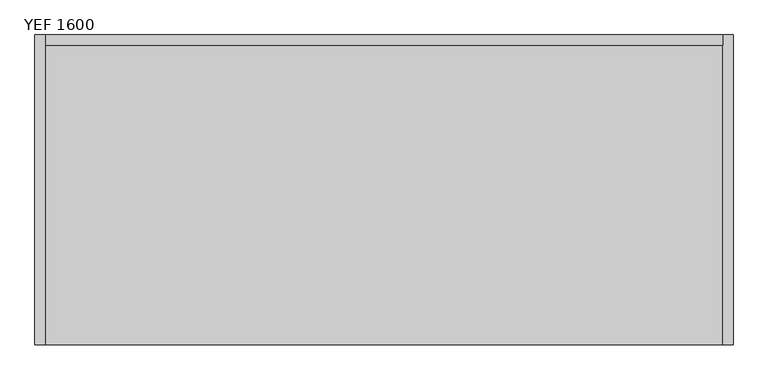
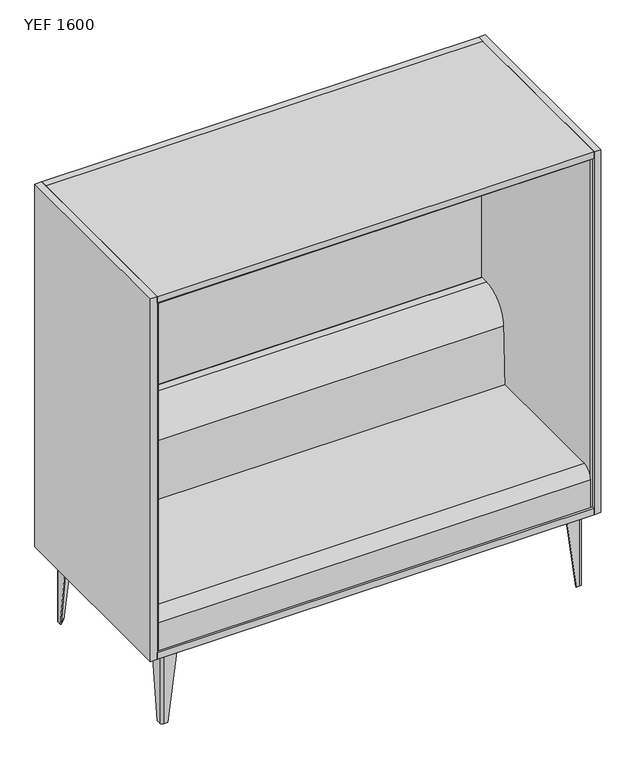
"""IFC4 building model written with IfcOpenShell, lengths in millimetres: furniture geometry, Mobiliário_Mobiliário de Escritório_LinhaYoung_Sofa Enclosure Fechado (Aço) - YEF_Marelli : YEF 1600."""

from ifc_helpers import new_model, si_unit, point, frame, frame_2d, origin, origin_with_axes, place, context, project, spatial, polyline, circle_curve, trimmed, segment, composite_curve, outline, extrude, source, transform, mapped, element, save
from ifc_brep_helpers import plane_surface, cylinder_surface, revolved_surface, advanced_brep


def yef_1600_15b0d586(model_context):
    return source(origin(), model_context, "Body", "SolidModel", [
        advanced_brep(
        [(20.0, 75.0, 280.0), (20.0, 25.0, 280.0), (30.0, 15.0, 280.0), (80.0, 15.0, 280.0), (80.0, 18.0, 280.0), (30.0, 18.0, 280.0), (23.0, 25.0, 280.0), (23.0, 75.0, 280.0), (20.0, 39.0, 0.0), (23.0, 39.0, 0.0), (23.0, 25.0, 0.0), (30.0, 18.0, 0.0), (44.0, 18.0, 0.0), (44.0, 15.0, 0.0), (30.0, 15.0, 0.0), (20.0, 25.0, 0.0)],
        [
            (0, 1),
            (1, 2, circle_curve(frame((30.0, 25.0, 280.0), z_axis=(0.0, 0.0, 1.0), x_axis=(0.0, -1.0, 0.0)), 10.0)),
            (2, 3),
            (3, 4),
            (4, 5),
            (5, 6, circle_curve(frame((30.0, 25.0, 280.0), z_axis=(0.0, 0.0, -1.0), x_axis=(-1.0, 0.0, 0.0)), 7.0)),
            (6, 7),
            (7, 0),
            (8, 9),
            (9, 10),
            (10, 11, circle_curve(frame((30.0, 25.0, 0.0), z_axis=(0.0, 0.0, 1.0), x_axis=(-1.0, 0.0, 0.0)), 7.0)),
            (11, 12),
            (12, 13),
            (13, 14),
            (14, 15, circle_curve(frame((30.0, 25.0, 0.0), z_axis=(0.0, 0.0, -1.0), x_axis=(0.0, -1.0, 0.0)), 10.0)),
            (15, 8),
            (15, 1),
            (0, 8),
            (14, 2),
            (13, 3),
            (12, 4),
            (11, 5),
            (10, 6),
            (9, 7),
        ],
        [
            plane_surface(frame((38.25, 33.25, 280.0), z_axis=(0.0, 0.0, 1.0), x_axis=(0.0, -1.0, 0.0))),
            plane_surface(frame((29.25, 24.25, 0.0), z_axis=(0.0, 0.0, -1.0), x_axis=(0.0, -1.0, 0.0))),
            plane_surface(frame((20.0, 32.0, 0.0), z_axis=(-1.0, 0.0, 0.0), x_axis=(0.0, -1.0, 0.0))),
            cylinder_surface(frame((30.0, 25.0, 0.0), z_axis=(0.0, 0.0, 1.0), x_axis=(0.0, -1.0, 0.0)), 10.0),
            plane_surface(frame((37.0, 15.0, 0.0), z_axis=(0.0, -1.0, 0.0), x_axis=(1.0, 0.0, 0.0))),
            plane_surface(frame((44.0, 16.5, 0.0), z_axis=(0.9918357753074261, 0.0, -0.12752174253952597), x_axis=(0.0, 1.0, 0.0))),
            plane_surface(frame((37.0, 18.0, 0.0), z_axis=(0.0, 1.0, 0.0), x_axis=(-1.0, 0.0, 0.0))),
            revolved_surface(polyline([(23.0, 25.0, 280.0), (23.0, 25.0, 0.0)]), (30.0, 25.0, 0.0), (0.0, 0.0, 1.0)),
            plane_surface(frame((23.0, 32.0, 0.0), z_axis=(1.0, 0.0, 0.0), x_axis=(0.0, 1.0, 0.0))),
            plane_surface(frame((21.5, 39.0, 0.0), z_axis=(0.0, 0.9918357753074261, -0.12752174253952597), x_axis=(-1.0, 0.0, 0.0))),
        ],
        [
            (0, [[1, 2, 3, 4, 5, 6, 7, 8]]),
            (1, [[9, 10, 11, 12, 13, 14, 15, 16]]),
            (2, [[-16, 17, -1, 18]]),
            (3, [[-15, 19, -2, -17]]),
            (4, [[-14, 20, -3, -19]]),
            (5, [[-13, 21, -4, -20]]),
            (6, [[-12, 22, -5, -21]]),
            (7, [[-11, 23, -6, -22]]),
            (8, [[-10, 24, -7, -23]]),
            (9, [[-9, -18, -8, -24]]),
        ],
    ),
        advanced_brep(
        [(1580.0, 75.0, 280.0), (1577.0, 75.0, 280.0), (1577.0, 25.0, 280.0), (1570.0, 18.0, 280.0), (1520.0, 18.0, 280.0), (1520.0, 15.0, 280.0), (1570.0, 15.0, 280.0), (1580.0, 25.0, 280.0), (1580.0, 39.0, 0.0), (1580.0, 25.0, 0.0), (1570.0, 15.0, 0.0), (1556.0, 15.0, 0.0), (1556.0, 18.0, 0.0), (1570.0, 18.0, 0.0), (1577.0, 25.0, 0.0), (1577.0, 39.0, 0.0)],
        [
            (0, 1),
            (1, 2),
            (2, 3, circle_curve(frame((1570.0, 25.0, 280.0), z_axis=(0.0, 0.0, -1.0), x_axis=(0.0, -1.0, 0.0)), 7.0)),
            (3, 4),
            (4, 5),
            (5, 6),
            (6, 7, circle_curve(frame((1570.0, 25.0, 280.0), z_axis=(0.0, 0.0, 1.0), x_axis=(1.0, 0.0, 0.0)), 10.0)),
            (7, 0),
            (8, 9),
            (9, 10, circle_curve(frame((1570.0, 25.0, 0.0), z_axis=(0.0, 0.0, -1.0), x_axis=(1.0, 0.0, 0.0)), 10.0)),
            (10, 11),
            (11, 12),
            (12, 13),
            (13, 14, circle_curve(frame((1570.0, 25.0, 0.0), z_axis=(0.0, 0.0, 1.0), x_axis=(0.0, -1.0, 0.0)), 7.0)),
            (14, 15),
            (15, 8),
            (8, 0),
            (7, 9),
            (6, 10),
            (5, 11),
            (4, 12),
            (3, 13),
            (2, 14),
            (1, 15),
        ],
        [
            plane_surface(frame((1561.75, 33.25, 280.0), z_axis=(0.0, 0.0, 1.0), x_axis=(-1.0, 0.0, 0.0))),
            plane_surface(frame((1570.75, 24.25, 0.0), z_axis=(0.0, 0.0, -1.0), x_axis=(-1.0, 0.0, 0.0))),
            plane_surface(frame((1580.0, 32.0, 0.0), z_axis=(1.0, 0.0, 0.0), x_axis=(0.0, 1.0, 0.0))),
            cylinder_surface(frame((1570.0, 25.0, 0.0), z_axis=(0.0, 0.0, 1.0), x_axis=(1.0, 0.0, 0.0)), 10.0),
            plane_surface(frame((1563.0, 15.0, 0.0), z_axis=(0.0, -1.0, 0.0), x_axis=(1.0, 0.0, 0.0))),
            plane_surface(frame((1556.0, 16.5, 0.0), z_axis=(-0.9918357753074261, 0.0, -0.127521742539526), x_axis=(0.0, -1.0, 0.0))),
            plane_surface(frame((1563.0, 18.0, 0.0), z_axis=(0.0, 1.0, 0.0), x_axis=(-1.0, 0.0, 0.0))),
            revolved_surface(polyline([(1570.0, 18.0, 280.0), (1570.0, 18.0, 0.0)]), (1570.0, 25.0, 0.0), (0.0, 0.0, 1.0)),
            plane_surface(frame((1577.0, 32.0, 0.0), z_axis=(-1.0, 0.0, 0.0), x_axis=(0.0, -1.0, 0.0))),
            plane_surface(frame((1578.5, 39.0, 0.0), z_axis=(0.0, 0.9918357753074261, -0.12752174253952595), x_axis=(-1.0, 0.0, 0.0))),
        ],
        [
            (0, [[1, 2, 3, 4, 5, 6, 7, 8]]),
            (1, [[9, 10, 11, 12, 13, 14, 15, 16]]),
            (2, [[-9, 17, -8, 18]]),
            (3, [[-10, -18, -7, 19]]),
            (4, [[-11, -19, -6, 20]]),
            (5, [[-12, -20, -5, 21]]),
            (6, [[-13, -21, -4, 22]]),
            (7, [[-14, -22, -3, 23]]),
            (8, [[-15, -23, -2, 24]]),
            (9, [[-16, -24, -1, -17]]),
        ],
    ),
        advanced_brep(
        [(20.0, 625.0, 280.0), (23.0, 625.0, 280.0), (23.0, 675.0, 280.0), (30.0, 682.0, 280.0), (80.0, 682.0, 280.0), (80.0, 685.0, 280.0), (30.0, 685.0, 280.0), (20.0, 675.0, 280.0), (20.0, 661.0, 0.0), (20.0, 675.0, 0.0), (30.0, 685.0, 0.0), (44.0, 685.0, 0.0), (44.0, 682.0, 0.0), (30.0, 682.0, 0.0), (23.0, 675.0, 0.0), (23.0, 661.0, 0.0)],
        [
            (0, 1),
            (1, 2),
            (2, 3, circle_curve(frame((30.0, 675.0, 280.0), z_axis=(0.0, 0.0, -1.0), x_axis=(0.0, 1.0, 0.0)), 7.0)),
            (3, 4),
            (4, 5),
            (5, 6),
            (6, 7, circle_curve(frame((30.0, 675.0, 280.0), z_axis=(0.0, 0.0, 1.0), x_axis=(-1.0, 0.0, 0.0)), 10.0)),
            (7, 0),
            (8, 9),
            (9, 10, circle_curve(frame((30.0, 675.0, 0.0), z_axis=(0.0, 0.0, -1.0), x_axis=(-1.0, 0.0, 0.0)), 10.0)),
            (10, 11),
            (11, 12),
            (12, 13),
            (13, 14, circle_curve(frame((30.0, 675.0, 0.0), z_axis=(0.0, 0.0, 1.0), x_axis=(0.0, 1.0, 0.0)), 7.0)),
            (14, 15),
            (15, 8),
            (8, 0),
            (7, 9),
            (6, 10),
            (5, 11),
            (4, 12),
            (3, 13),
            (2, 14),
            (1, 15),
        ],
        [
            plane_surface(frame((38.25, 666.75, 280.0), z_axis=(0.0, 0.0, 1.0), x_axis=(1.0, 0.0, 0.0))),
            plane_surface(frame((29.25, 675.75, 0.0), z_axis=(0.0, 0.0, -1.0), x_axis=(1.0, 0.0, 0.0))),
            plane_surface(frame((20.0, 668.0, 0.0), z_axis=(-1.0, 0.0, 0.0), x_axis=(0.0, -1.0, 0.0))),
            cylinder_surface(frame((30.0, 675.0, 0.0), z_axis=(0.0, 0.0, 1.0), x_axis=(-1.0, 0.0, 0.0)), 10.0),
            plane_surface(frame((37.0, 685.0, 0.0), z_axis=(0.0, 1.0, 0.0), x_axis=(-1.0, 0.0, 0.0))),
            plane_surface(frame((44.0, 683.5, 0.0), z_axis=(0.9918357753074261, 0.0, -0.12752174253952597), x_axis=(0.0, 1.0, 0.0))),
            plane_surface(frame((37.0, 682.0, 0.0), z_axis=(0.0, -1.0, 0.0), x_axis=(1.0, 0.0, 0.0))),
            revolved_surface(polyline([(30.0, 682.0, 280.0), (30.0, 682.0, 0.0)]), (30.0, 675.0, 0.0), (0.0, 0.0, 1.0)),
            plane_surface(frame((23.0, 668.0, 0.0), z_axis=(1.0, 0.0, 0.0), x_axis=(0.0, 1.0, 0.0))),
            plane_surface(frame((21.5, 661.0, 0.0), z_axis=(0.0, -0.9918357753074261, -0.127521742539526), x_axis=(1.0, 0.0, 0.0))),
        ],
        [
            (0, [[1, 2, 3, 4, 5, 6, 7, 8]]),
            (1, [[9, 10, 11, 12, 13, 14, 15, 16]]),
            (2, [[-9, 17, -8, 18]]),
            (3, [[-10, -18, -7, 19]]),
            (4, [[-11, -19, -6, 20]]),
            (5, [[-12, -20, -5, 21]]),
            (6, [[-13, -21, -4, 22]]),
            (7, [[-14, -22, -3, 23]]),
            (8, [[-15, -23, -2, 24]]),
            (9, [[-16, -24, -1, -17]]),
        ],
    ),
        advanced_brep(
        [(1580.0, 625.0, 280.0), (1580.0, 675.0, 280.0), (1570.0, 685.0, 280.0), (1520.0, 685.0, 280.0), (1520.0, 682.0, 280.0), (1570.0, 682.0, 280.0), (1577.0, 675.0, 280.0), (1577.0, 625.0, 280.0), (1580.0, 661.0, 0.0), (1577.0, 661.0, 0.0), (1577.0, 675.0, 0.0), (1570.0, 682.0, 0.0), (1556.0, 682.0, 0.0), (1556.0, 685.0, 0.0), (1570.0, 685.0, 0.0), (1580.0, 675.0, 0.0)],
        [
            (0, 1),
            (1, 2, circle_curve(frame((1570.0, 675.0, 280.0), z_axis=(0.0, 0.0, 1.0), x_axis=(0.0, 1.0, 0.0)), 10.0)),
            (2, 3),
            (3, 4),
            (4, 5),
            (5, 6, circle_curve(frame((1570.0, 675.0, 280.0), z_axis=(0.0, 0.0, -1.0), x_axis=(1.0, 0.0, 0.0)), 7.0)),
            (6, 7),
            (7, 0),
            (8, 9),
            (9, 10),
            (10, 11, circle_curve(frame((1570.0, 675.0, 0.0), z_axis=(0.0, 0.0, 1.0), x_axis=(1.0, 0.0, 0.0)), 7.0)),
            (11, 12),
            (12, 13),
            (13, 14),
            (14, 15, circle_curve(frame((1570.0, 675.0, 0.0), z_axis=(0.0, 0.0, -1.0), x_axis=(0.0, 1.0, 0.0)), 10.0)),
            (15, 8),
            (15, 1),
            (0, 8),
            (14, 2),
            (13, 3),
            (12, 4),
            (11, 5),
            (10, 6),
            (9, 7),
        ],
        [
            plane_surface(frame((1561.75, 666.75, 280.0), z_axis=(0.0, 0.0, 1.0), x_axis=(0.0, 1.0, 0.0))),
            plane_surface(frame((1570.75, 675.75, 0.0), z_axis=(0.0, 0.0, -1.0), x_axis=(0.0, 1.0, 0.0))),
            plane_surface(frame((1580.0, 668.0, 0.0), z_axis=(1.0, 0.0, 0.0), x_axis=(0.0, 1.0, 0.0))),
            cylinder_surface(frame((1570.0, 675.0, 0.0), z_axis=(0.0, 0.0, 1.0), x_axis=(0.0, 1.0, 0.0)), 10.0),
            plane_surface(frame((1563.0, 685.0, 0.0), z_axis=(0.0, 1.0, 0.0), x_axis=(-1.0, 0.0, 0.0))),
            plane_surface(frame((1556.0, 683.5, 0.0), z_axis=(-0.9918357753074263, 0.0, -0.1275217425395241), x_axis=(0.0, -1.0, 0.0))),
            plane_surface(frame((1563.0, 682.0, 0.0), z_axis=(0.0, -1.0, 0.0), x_axis=(1.0, 0.0, 0.0))),
            revolved_surface(polyline([(1577.0, 675.0, 280.0), (1577.0, 675.0, 0.0)]), (1570.0, 675.0, 0.0), (0.0, 0.0, 1.0)),
            plane_surface(frame((1577.0, 668.0, 0.0), z_axis=(-1.0, 0.0, 0.0), x_axis=(0.0, -1.0, 0.0))),
            plane_surface(frame((1578.5, 661.0, 0.0), z_axis=(0.0, -0.9918357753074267, -0.1275217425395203), x_axis=(1.0, 0.0, 0.0))),
        ],
        [
            (0, [[1, 2, 3, 4, 5, 6, 7, 8]]),
            (1, [[9, 10, 11, 12, 13, 14, 15, 16]]),
            (2, [[-16, 17, -1, 18]]),
            (3, [[-15, 19, -2, -17]]),
            (4, [[-14, 20, -3, -19]]),
            (5, [[-13, 21, -4, -20]]),
            (6, [[-12, 22, -5, -21]]),
            (7, [[-11, 23, -6, -22]]),
            (8, [[-10, 24, -7, -23]]),
            (9, [[-9, -18, -8, -24]]),
        ],
    ),
        extrude(outline(composite_curve([segment(polyline([(23.0, 39.0), (44.0, 18.0), (30.0, 18.0)]), True, "CONTINUOUS"), segment(trimmed(circle_curve(frame_2d((30.0, 25.0)), 7.0), [point((30.0, 18.0))], [point((23.0, 25.0))], False, "CARTESIAN"), True, "CONTINUOUS"), segment(polyline([(23.0, 25.0), (23.0, 39.0)]), True, "CONTINUOUS")], self_intersect=False)), origin_with_axes(), (0.0, 0.0, 1.0), 1.0),
        extrude(outline(composite_curve([segment(polyline([(23.0, 661.0), (23.0, 675.0)]), True, "CONTINUOUS"), segment(trimmed(circle_curve(frame_2d((30.0, 675.0)), 7.0), [point((23.0, 675.0))], [point((30.0, 682.0))], False, "CARTESIAN"), True, "CONTINUOUS"), segment(polyline([(30.0, 682.0), (44.0, 682.0), (23.0, 661.0)]), True, "CONTINUOUS")], self_intersect=False)), origin_with_axes(), (0.0, 0.0, 1.0), 1.0),
        extrude(outline(composite_curve([segment(polyline([(1577.0, 39.0), (1577.0, 25.0)]), True, "CONTINUOUS"), segment(trimmed(circle_curve(frame_2d((1570.0, 25.0)), 7.0), [point((1577.0, 25.0))], [point((1570.0, 18.0))], False, "CARTESIAN"), True, "CONTINUOUS"), segment(polyline([(1570.0, 18.0), (1556.0, 18.0), (1577.0, 39.0)]), True, "CONTINUOUS")], self_intersect=False)), origin_with_axes(), (0.0, 0.0, 1.0), 1.0),
        extrude(outline(composite_curve([segment(polyline([(1577.0, 661.0), (1556.0, 682.0), (1570.0, 682.0)]), True, "CONTINUOUS"), segment(trimmed(circle_curve(frame_2d((1570.0, 675.0)), 7.0), [point((1570.0, 682.0))], [point((1577.0, 675.0))], False, "CARTESIAN"), True, "CONTINUOUS"), segment(polyline([(1577.0, 675.0), (1577.0, 661.0)]), True, "CONTINUOUS")], self_intersect=False)), origin_with_axes(), (0.0, 0.0, 1.0), 1.0),
        extrude(outline(composite_curve([segment(trimmed(circle_curve(frame_2d((30.0, 25.0)), 7.0), [point((30.0, 18.0))], [point((23.0, 25.0))], False, "CARTESIAN"), True, "CONTINUOUS"), segment(polyline([(23.0, 25.0), (23.0, 93.0)]), True, "CONTINUOUS"), segment(trimmed(circle_curve(frame_2d((28.0, 93.0)), 5.0), [point((23.0, 93.0))], [point((28.0, 98.0))], False, "CARTESIAN"), True, "CONTINUOUS"), segment(polyline([(28.0, 98.0), (51.9545624, 98.0)]), True, "CONTINUOUS"), segment(trimmed(circle_curve(frame_2d((52.6241051, 89.931755)), 8.0959783), [point((51.9545624, 98.0))], [point((58.520382, 95.479618))], False, "CARTESIAN"), True, "CONTINUOUS"), segment(polyline([(58.520382, 95.479618), (100.479618, 53.520382)]), True, "CONTINUOUS"), segment(trimmed(circle_curve(frame_2d((94.931755, 47.6241051)), 8.0959783), [point((100.479618, 53.520382))], [point((103.0, 46.9545624))], False, "CARTESIAN"), True, "CONTINUOUS"), segment(polyline([(103.0, 46.9545624), (103.0, 23.0)]), True, "CONTINUOUS"), segment(trimmed(circle_curve(frame_2d((98.0, 23.0)), 5.0), [point((103.0, 23.0))], [point((98.0, 18.0))], False, "CARTESIAN"), True, "CONTINUOUS"), segment(polyline([(98.0, 18.0), (30.0, 18.0)]), True, "CONTINUOUS")], self_intersect=False)), frame((0.0, 0.0, 279.0), z_axis=(0.0, 0.0, 1.0), x_axis=(1.0, 0.0, 0.0)), (0.0, 0.0, 1.0), 1.0),
        extrude(outline(composite_curve([segment(polyline([(30.0, 682.0), (98.0, 682.0)]), True, "CONTINUOUS"), segment(trimmed(circle_curve(frame_2d((98.0, 677.0)), 5.0), [point((98.0, 682.0))], [point((103.0, 677.0))], False, "CARTESIAN"), True, "CONTINUOUS"), segment(polyline([(103.0, 677.0), (103.0, 653.0454376)]), True, "CONTINUOUS"), segment(trimmed(circle_curve(frame_2d((94.931755, 652.3758949)), 8.0959783), [point((103.0, 653.0454376))], [point((100.479618, 646.479618))], False, "CARTESIAN"), True, "CONTINUOUS"), segment(polyline([(100.479618, 646.479618), (58.520382, 604.520382)]), True, "CONTINUOUS"), segment(trimmed(circle_curve(frame_2d((52.6241051, 610.068245)), 8.0959783), [point((58.520382, 604.520382))], [point((51.9545624, 602.0))], False, "CARTESIAN"), True, "CONTINUOUS"), segment(polyline([(51.9545624, 602.0), (28.0, 602.0)]), True, "CONTINUOUS"), segment(trimmed(circle_curve(frame_2d((28.0, 607.0)), 5.0), [point((28.0, 602.0))], [point((23.0, 607.0))], False, "CARTESIAN"), True, "CONTINUOUS"), segment(polyline([(23.0, 607.0), (23.0, 675.0)]), True, "CONTINUOUS"), segment(trimmed(circle_curve(frame_2d((30.0, 675.0)), 7.0), [point((23.0, 675.0))], [point((30.0, 682.0))], False, "CARTESIAN"), True, "CONTINUOUS")], self_intersect=False)), frame((0.0, 0.0, 279.0), z_axis=(0.0, 0.0, 1.0), x_axis=(1.0, 0.0, 0.0)), (0.0, 0.0, 1.0), 1.0),
        extrude(outline(composite_curve([segment(polyline([(1570.0, 18.0), (1502.0, 18.0)]), True, "CONTINUOUS"), segment(trimmed(circle_curve(frame_2d((1502.0, 23.0)), 5.0), [point((1502.0, 18.0))], [point((1497.0, 23.0))], False, "CARTESIAN"), True, "CONTINUOUS"), segment(polyline([(1497.0, 23.0), (1497.0, 46.9545624)]), True, "CONTINUOUS"), segment(trimmed(circle_curve(frame_2d((1505.068245, 47.6241051)), 8.0959783), [point((1497.0, 46.9545624))], [point((1499.520382, 53.520382))], False, "CARTESIAN"), True, "CONTINUOUS"), segment(polyline([(1499.520382, 53.520382), (1541.479618, 95.479618)]), True, "CONTINUOUS"), segment(trimmed(circle_curve(frame_2d((1547.3758949, 89.931755)), 8.0959783), [point((1541.479618, 95.479618))], [point((1548.0454376, 98.0))], False, "CARTESIAN"), True, "CONTINUOUS"), segment(polyline([(1548.0454376, 98.0), (1572.0, 98.0)]), True, "CONTINUOUS"), segment(trimmed(circle_curve(frame_2d((1572.0, 93.0)), 5.0), [point((1572.0, 98.0))], [point((1577.0, 93.0))], False, "CARTESIAN"), True, "CONTINUOUS"), segment(polyline([(1577.0, 93.0), (1577.0, 25.0)]), True, "CONTINUOUS"), segment(trimmed(circle_curve(frame_2d((1570.0, 25.0)), 7.0), [point((1577.0, 25.0))], [point((1570.0, 18.0))], False, "CARTESIAN"), True, "CONTINUOUS")], self_intersect=False)), frame((0.0, 0.0, 279.0), z_axis=(0.0, 0.0, 1.0), x_axis=(1.0, 0.0, 0.0)), (0.0, 0.0, 1.0), 1.0),
        extrude(outline(composite_curve([segment(trimmed(circle_curve(frame_2d((1570.0, 675.0)), 7.0), [point((1570.0, 682.0))], [point((1577.0, 675.0))], False, "CARTESIAN"), True, "CONTINUOUS"), segment(polyline([(1577.0, 675.0), (1577.0, 607.0)]), True, "CONTINUOUS"), segment(trimmed(circle_curve(frame_2d((1572.0, 607.0)), 5.0), [point((1577.0, 607.0))], [point((1572.0, 602.0))], False, "CARTESIAN"), True, "CONTINUOUS"), segment(polyline([(1572.0, 602.0), (1548.0454376, 602.0)]), True, "CONTINUOUS"), segment(trimmed(circle_curve(frame_2d((1547.3758949, 610.068245)), 8.0959783), [point((1548.0454376, 602.0))], [point((1541.479618, 604.520382))], False, "CARTESIAN"), True, "CONTINUOUS"), segment(polyline([(1541.479618, 604.520382), (1499.520382, 646.479618)]), True, "CONTINUOUS"), segment(trimmed(circle_curve(frame_2d((1505.068245, 652.3758949)), 8.0959783), [point((1499.520382, 646.479618))], [point((1497.0, 653.0454376))], False, "CARTESIAN"), True, "CONTINUOUS"), segment(polyline([(1497.0, 653.0454376), (1497.0, 677.0)]), True, "CONTINUOUS"), segment(trimmed(circle_curve(frame_2d((1502.0, 677.0)), 5.0), [point((1497.0, 677.0))], [point((1502.0, 682.0))], False, "CARTESIAN"), True, "CONTINUOUS"), segment(polyline([(1502.0, 682.0), (1570.0, 682.0)]), True, "CONTINUOUS")], self_intersect=False)), frame((0.0, 0.0, 279.0), z_axis=(0.0, 0.0, 1.0), x_axis=(1.0, 0.0, 0.0)), (0.0, 0.0, 1.0), 1.0),
        extrude(outline(composite_curve([segment(polyline([(547.0, 455.0), (547.0, 305.0), (0.0, 305.0), (0.0, 415.0)]), True, "CONTINUOUS"), segment(trimmed(circle_curve(frame_2d((40.0, 415.0)), 40.0), [point((0.0, 415.0))], [point((40.0, 455.0))], False, "CARTESIAN"), True, "CONTINUOUS"), segment(polyline([(40.0, 455.0), (547.0, 455.0)]), True, "CONTINUOUS")], self_intersect=False)), frame((0.0, 0.0, 0.0), z_axis=(1.0, 0.0, 0.0), x_axis=(0.0, 1.0, 0.0)), (0.0, 0.0, 1.0), 1600.0),
        extrude(outline(polyline([(1609.0, -9.0), (-9.0, -9.0), (-9.0, 706.0), (1609.0, 706.0), (1609.0, -9.0)])), frame((0.0, 0.0, 280.0), z_axis=(0.0, 0.0, 1.0), x_axis=(1.0, 0.0, 0.0)), (0.0, 0.0, 1.0), 25.0),
        extrude(outline(polyline([(-9.0, 0.0), (-9.0, 706.0), (0.0, 706.0), (0.0, 0.0), (-9.0, 0.0)])), frame((0.0, 0.0, 305.0), z_axis=(0.0, 0.0, 1.0), x_axis=(1.0, 0.0, 0.0)), (0.0, 0.0, 1.0), 1370.0),
        extrude(outline(polyline([(-9.0, -9.0), (-34.0, -9.0), (-34.0, 731.0), (-9.0, 731.0), (-9.0, -9.0)])), frame((0.0, 0.0, 280.0), z_axis=(0.0, 0.0, 1.0), x_axis=(1.0, 0.0, 0.0)), (0.0, 0.0, 1.0), 1420.0),
        extrude(outline(polyline([(1609.0, 706.0), (-9.0, 706.0), (-9.0, 731.0), (1609.0, 731.0), (1609.0, 706.0)])), frame((0.0, 0.0, 280.0), z_axis=(0.0, 0.0, 1.0), x_axis=(1.0, 0.0, 0.0)), (0.0, 0.0, 1.0), 1420.0),
        extrude(outline(polyline([(1609.0, -9.0), (1609.0, 731.0), (1634.0, 731.0), (1634.0, -9.0), (1609.0, -9.0)])), frame((0.0, 0.0, 280.0), z_axis=(0.0, 0.0, 1.0), x_axis=(1.0, 0.0, 0.0)), (0.0, 0.0, 1.0), 1420.0),
        extrude(outline(polyline([(1609.0, 0.0), (1600.0, 0.0), (1600.0, 706.0), (1609.0, 706.0), (1609.0, 0.0)])), frame((0.0, 0.0, 305.0), z_axis=(0.0, 0.0, 1.0), x_axis=(1.0, 0.0, 0.0)), (0.0, 0.0, 1.0), 1370.0),
        extrude(outline(polyline([(1609.0, -9.0), (-9.0, -9.0), (-9.0, 706.0), (1609.0, 706.0), (1609.0, -9.0)])), frame((0.0, 0.0, 1675.0), z_axis=(0.0, 0.0, 1.0), x_axis=(1.0, 0.0, 0.0)), (0.0, 0.0, 1.0), 25.0),
        extrude(outline(polyline([(1600.0, 0.0), (0.0, 0.0), (0.0, 706.0), (1600.0, 706.0), (1600.0, 0.0)])), frame((0.0, 0.0, 1666.0), z_axis=(0.0, 0.0, 1.0), x_axis=(1.0, 0.0, 0.0)), (0.0, 0.0, 1.0), 9.0),
        extrude(outline(polyline([(1600.0, 706.0), (1600.0, 697.0), (0.0, 697.0), (0.0, 706.0), (1600.0, 706.0)])), frame((0.0, 0.0, 305.0), z_axis=(0.0, 0.0, 1.0), x_axis=(1.0, 0.0, 0.0)), (0.0, 0.0, 1.0), 1361.0),
        extrude(outline(composite_curve([segment(polyline([(697.0, 781.802426), (697.0, 305.0), (547.0, 305.0), (547.0, 455.0), (555.2568376, 679.223651)]), True, "CONTINUOUS"), segment(trimmed(circle_curve(frame_2d((665.0, 675.1824561)), 109.8175439), [point((555.2568376, 679.223651))], [point((665.0, 785.0))], False, "CARTESIAN"), True, "CONTINUOUS"), segment(polyline([(665.0, 785.0), (693.802426, 785.0)]), True, "CONTINUOUS"), segment(trimmed(circle_curve(frame_2d((693.802426, 781.802426)), 3.197574), [point((693.802426, 785.0))], [point((697.0, 781.802426))], False, "CARTESIAN"), True, "CONTINUOUS")], self_intersect=False)), frame((0.0, 0.0, 0.0), z_axis=(1.0, 0.0, 0.0), x_axis=(0.0, 1.0, 0.0)), (0.0, 0.0, 1.0), 1600.0),
    ])


if __name__ == "__main__":
    model = new_model("IFC4")
    model_context = context("Model", 3, world=origin())
    ifc_project = project(units=[si_unit("LENGTHUNIT", "METRE", prefix="MILLI")], contexts=[model_context])
    site = spatial("IfcSite", under=ifc_project)
    building = spatial("IfcBuilding", under=site)
    placement = place(None, origin())
    yef_1600_shape = yef_1600_15b0d586(model_context)
    element("IfcFurniture", 1, ObjectType="Mobiliário_Mobiliário de Escritório_LinhaYoung_Sofa Enclosure Fechado (Aço) - YEF_Marelli : YEF 1600", at=placement, inside=building, context=model_context, shape_type="MappedRepresentation", body=[
        mapped(yef_1600_shape, transform((0.0, 0.0, 0.0), x_axis=(1.0, 0.0, 0.0), y_axis=(0.0, 1.0, 0.0), z_axis=(0.0, 0.0, 1.0))),
    ])
    save(model, "model.ifc")
